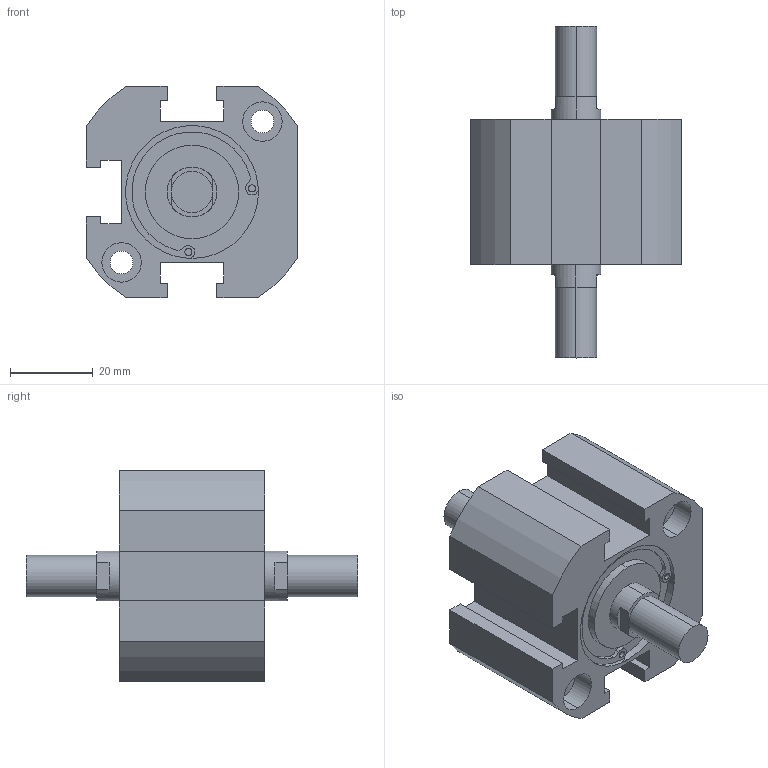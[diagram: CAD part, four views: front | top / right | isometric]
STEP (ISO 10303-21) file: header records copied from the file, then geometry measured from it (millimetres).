
FILE_DESCRIPTION (( 'STEP AP203' ), '1' );
FILE_NAME ('XC#M7-32-10.STEP', '2016-05-23T08:56:17', ( '' ), ( '' ), 'SwSTEP 2.0', 'SolidWorks 2014', '' );
FILE_SCHEMA (( 'CONFIG_CONTROL_DESIGN' ));
Length unit declared in the file: millimetre
Products named in the file (1): XC#M7-32-10
Bounding box: 51 x 80 x 51 mm (x, y, z)
Volume: 71165.1 mm3; surface area: 17280.2 mm2
Topology: 1 solids, 1 shells, 133 faces, 333 edges, 216 vertices
Faces by surface type: cylinder 65, plane 60, cone 8
Entity records: 4078 total; most frequent: DIRECTION 747, CARTESIAN_POINT 679, ORIENTED_EDGE 658, EDGE_CURVE 329, AXIS2_PLACEMENT_3D 284, VERTEX_POINT 216, LINE 179, VECTOR 179
